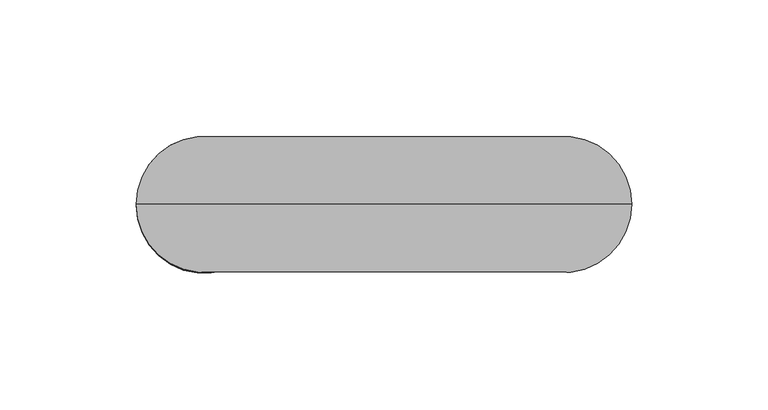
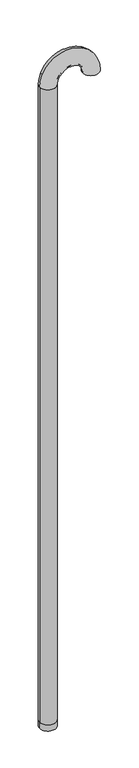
"""IFC4 building model written with IfcOpenShell, lengths in millimetres: pipe fitting geometry, Superdrain Vent Termianl : Superdrain Vent Termianl DN 50."""

from ifc_helpers import new_model, si_unit, point, frame, origin, origin_with_axes, origin_2d, place, context, project, spatial, circle_curve, ellipse_curve, trimmed, segment, composite_curve, outline, extrude, source, transform, mapped, element, save
from ifc_brep_helpers import plane_surface, revolved_surface, advanced_brep


def pipe_fitting_6eb50a13(model_context):
    return source(origin(), model_context, "Body", "SolidModel", [
        advanced_brep(
        [(25.0, 0.0, 2080.0), (-25.0, 0.0, 2080.0), (22.0, 0.0, 2080.0), (-22.0, 0.0, 2080.0), (107.0, 0.0, 2080.0), (157.0, 0.0, 2080.0), (110.0, 0.0, 2080.0), (154.0, 0.0, 2080.0)],
        [
            (0, 1, circle_curve(frame((0.0, 0.0, 2080.0), z_axis=(0.0, 0.0, -1.0), x_axis=(-1.0, 0.0, 0.0)), 25.0)),
            (1, 0, circle_curve(frame((0.0, 0.0, 2080.0), z_axis=(0.0, 0.0, -1.0), x_axis=(-1.0, 0.0, 0.0)), 25.0)),
            (2, 3, circle_curve(frame((0.0, 0.0, 2080.0), z_axis=(0.0, 0.0, 1.0), x_axis=(-1.0, 0.0, 0.0)), 22.0)),
            (3, 2, circle_curve(frame((0.0, 0.0, 2080.0), z_axis=(0.0, 0.0, 1.0), x_axis=(-1.0, 0.0, 0.0)), 22.0)),
            (4, 5, circle_curve(frame((132.0, 0.0, 2080.0), z_axis=(0.0, 0.0, -1.0), x_axis=(1.0, 0.0, 0.0)), 25.0)),
            (5, 4, circle_curve(frame((132.0, 0.0, 2080.0), z_axis=(0.0, 0.0, -1.0), x_axis=(1.0, 0.0, 0.0)), 25.0)),
            (6, 7, circle_curve(frame((132.0, 0.0, 2080.0), z_axis=(0.0, 0.0, 1.0), x_axis=(1.0, 0.0, 0.0)), 22.0)),
            (7, 6, circle_curve(frame((132.0, 0.0, 2080.0), z_axis=(0.0, 0.0, 1.0), x_axis=(1.0, 0.0, 0.0)), 22.0)),
            (5, 1, circle_curve(frame((66.0, 0.0, 2080.0), z_axis=(0.0, -1.0, 0.0), x_axis=(-1.0, 0.0, 0.0)), 91.0)),
            (0, 4, circle_curve(frame((66.0, 0.0, 2080.0), z_axis=(0.0, 1.0, 0.0), x_axis=(-1.0, 0.0, 0.0)), 41.0)),
            (7, 3, circle_curve(frame((66.0, 0.0, 2080.0), z_axis=(0.0, -1.0, 0.0), x_axis=(-1.0, 0.0, 0.0)), 88.0)),
            (2, 6, circle_curve(frame((66.0, 0.0, 2080.0), z_axis=(0.0, 1.0, 0.0), x_axis=(-1.0, 0.0, 0.0)), 44.0)),
        ],
        [
            plane_surface(frame((0.0, 0.0, 2080.0), z_axis=(0.0, 0.0, -1.0), x_axis=(0.0, -1.0, 0.0))),
            plane_surface(frame((132.0, 0.0, 2080.0), z_axis=(0.0, 0.0, -1.0), x_axis=(0.0, -1.0, 0.0))),
            revolved_surface(trimmed(ellipse_curve(frame((0.0, 0.0, 2080.0), z_axis=(0.0, 0.0, -1.0), x_axis=(-1.0, 0.0, 0.0)), 25.0, 25.0), [point((25.0, 0.0, 2080.0))], [point((-25.0, 0.0, 2080.0))], True, "CARTESIAN"), (66.0, 0.0, 2080.0), (0.0, 1.0, 0.0)),
            revolved_surface(trimmed(ellipse_curve(frame((0.0, 0.0, 2080.0), z_axis=(0.0, 0.0, -1.0), x_axis=(-1.0, 0.0, 0.0)), 25.0, 25.0), [point((-25.0, 0.0, 2080.0))], [point((25.0, 0.0, 2080.0))], True, "CARTESIAN"), (66.0, 0.0, 2080.0), (0.0, 1.0, 0.0)),
            revolved_surface(trimmed(ellipse_curve(frame((0.0, 0.0, 2080.0), z_axis=(0.0, 0.0, 1.0), x_axis=(-1.0, 0.0, 0.0)), 22.0, 22.0), [point((22.0, 0.0, 2080.0))], [point((-22.0, 0.0, 2080.0))], True, "CARTESIAN"), (66.0, 0.0, 2080.0), (0.0, 1.0, 0.0)),
            revolved_surface(trimmed(ellipse_curve(frame((0.0, 0.0, 2080.0), z_axis=(0.0, 0.0, 1.0), x_axis=(-1.0, 0.0, 0.0)), 22.0, 22.0), [point((-22.0, 0.0, 2080.0))], [point((22.0, 0.0, 2080.0))], True, "CARTESIAN"), (66.0, 0.0, 2080.0), (0.0, 1.0, 0.0)),
        ],
        [
            (0, [[1, 2], [3, 4]]),
            (1, [[5, 6], [7, 8]]),
            (2, [[9, -1, 10, -6]]),
            (3, [[-10, -2, -9, -5]]),
            (4, [[11, -3, 12, -8]]),
            (5, [[-12, -4, -11, -7]]),
        ],
    ),
        extrude(outline(composite_curve([segment(trimmed(circle_curve(origin_2d(), 25.0), [point((25.0, 0.0))], [point((-25.0, 0.0))], False, "CARTESIAN"), True, "CONTINUOUS"), segment(trimmed(circle_curve(origin_2d(), 25.0), [point((-25.0, 0.0))], [point((25.0, 0.0))], False, "CARTESIAN"), True, "CONTINUOUS")], self_intersect=False), holes=[composite_curve([segment(trimmed(circle_curve(origin_2d(), 22.0), [point((22.0, 0.0))], [point((-22.0, 0.0))], True, "CARTESIAN"), True, "CONTINUOUS"), segment(trimmed(circle_curve(origin_2d(), 22.0), [point((-22.0, 0.0))], [point((22.0, 0.0))], True, "CARTESIAN"), True, "CONTINUOUS")], self_intersect=False)]), frame((0.0, 0.0, 20.0), z_axis=(0.0, 0.0, 1.0), x_axis=(1.0, 0.0, 0.0)), (0.0, 0.0, 1.0), 2060.0),
        extrude(outline(composite_curve([segment(trimmed(circle_curve(origin_2d(), 25.0), [point((-25.0, 0.0))], [point((25.0, 0.0))], False, "CARTESIAN"), True, "CONTINUOUS"), segment(trimmed(circle_curve(origin_2d(), 25.0), [point((25.0, 0.0))], [point((-25.0, 0.0))], False, "CARTESIAN"), True, "CONTINUOUS")], self_intersect=False), holes=[composite_curve([segment(trimmed(circle_curve(origin_2d(), 22.0), [point((-22.0, 0.0))], [point((22.0, 0.0))], True, "CARTESIAN"), True, "CONTINUOUS"), segment(trimmed(circle_curve(origin_2d(), 22.0), [point((22.0, 0.0))], [point((-22.0, 0.0))], True, "CARTESIAN"), True, "CONTINUOUS")], self_intersect=False)]), origin_with_axes(), (0.0, 0.0, 1.0), 20.0),
    ])


if __name__ == "__main__":
    model = new_model("IFC4")
    model_context = context("Model", 3, world=origin())
    ifc_project = project(units=[si_unit("LENGTHUNIT", "METRE", prefix="MILLI")], contexts=[model_context])
    site = spatial("IfcSite", under=ifc_project)
    building = spatial("IfcBuilding", under=site)
    placement = place(None, origin())
    pipe_fitting_shape = pipe_fitting_6eb50a13(model_context)
    element("IfcPipeFitting", 1, ObjectType="Superdrain Vent Termianl : Superdrain Vent Termianl DN 50", at=placement, inside=building, context=model_context, shape_type="MappedRepresentation", body=[
        mapped(pipe_fitting_shape, transform((0.0, 0.0, 0.0), x_axis=(1.0, 0.0, 0.0), y_axis=(0.0, 1.0, 0.0), z_axis=(0.0, 0.0, 1.0))),
    ])
    save(model, "model.ifc")
